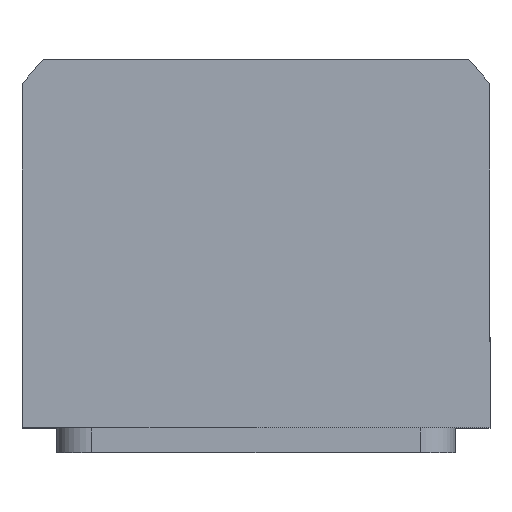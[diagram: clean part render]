
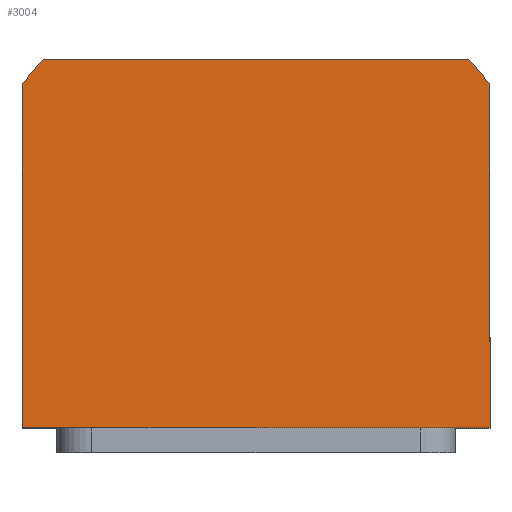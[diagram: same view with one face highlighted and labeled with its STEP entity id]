
A CAD part, top view. The second image highlights one B-rep face of the part: STEP entity #3004.
In plain terms, the highlighted planar face has unit normal (0, 0, 1).
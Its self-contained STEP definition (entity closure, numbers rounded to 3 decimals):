
#149 = ORIENTED_EDGE ( 'NONE', *, *, #14092, .T. ) ;
#204 = AXIS2_PLACEMENT_3D ( 'NONE', #9610, #10722, #3819 ) ;
#368 = CARTESIAN_POINT ( 'NONE',  ( 47., 34.832, 42.5 ) ) ;
#1058 = CARTESIAN_POINT ( 'NONE',  ( 47., -34., 42.5 ) ) ;
#1302 = DIRECTION ( 'NONE',  ( 1., 0., 0. ) ) ;
#1417 = PLANE ( 'NONE',  #204 ) ;
#1786 = LINE ( 'NONE', #368, #3983 ) ;
#1802 = CARTESIAN_POINT ( 'NONE',  ( 47., -34., 42.5 ) ) ;
#1980 = AXIS2_PLACEMENT_3D ( 'NONE', #4614, #5809, #13952 ) ;
#2444 = CARTESIAN_POINT ( 'NONE',  ( -47., -34., 42.5 ) ) ;
#2758 = LINE ( 'NONE', #1802, #8617 ) ;
#3004 = ADVANCED_FACE ( 'NONE', ( #13437 ), #1417, .T. ) ;
#3397 = VERTEX_POINT ( 'NONE', #13822 ) ;
#3430 = VERTEX_POINT ( 'NONE', #14097 ) ;
#3482 = EDGE_CURVE ( 'NONE', #7313, #10157, #1786, .T. ) ;
#3571 = ORIENTED_EDGE ( 'NONE', *, *, #12224, .T. ) ;
#3819 = DIRECTION ( 'NONE',  ( 1., 0., 0. ) ) ;
#3983 = VECTOR ( 'NONE', #9540, 1000. ) ;
#4184 = EDGE_CURVE ( 'NONE', #3430, #10911, #11476, .T. ) ;
#4614 = CARTESIAN_POINT ( 'NONE',  ( 0., 0., 42.5 ) ) ;
#4827 = EDGE_LOOP ( 'NONE', ( #8937, #6299, #14672, #149, #3571, #5592 ) ) ;
#4894 = VERTEX_POINT ( 'NONE', #9495 ) ;
#5592 = ORIENTED_EDGE ( 'NONE', *, *, #4184, .T. ) ;
#5809 = DIRECTION ( 'NONE',  ( 0., 0., 1. ) ) ;
#6062 = CARTESIAN_POINT ( 'NONE',  ( -42.688, 40., 42.5 ) ) ;
#6203 = DIRECTION ( 'NONE',  ( -1., 0., 0. ) ) ;
#6299 = ORIENTED_EDGE ( 'NONE', *, *, #3482, .T. ) ;
#6838 = CIRCLE ( 'NONE', #12977, 58.5 ) ;
#7083 = CARTESIAN_POINT ( 'NONE',  ( 0., 0., 42.5 ) ) ;
#7170 = LINE ( 'NONE', #6062, #9030 ) ;
#7313 = VERTEX_POINT ( 'NONE', #1058 ) ;
#8178 = VECTOR ( 'NONE', #11696, 1000. ) ;
#8418 = EDGE_CURVE ( 'NONE', #10157, #3397, #12288, .T. ) ;
#8617 = VECTOR ( 'NONE', #9113, 1000. ) ;
#8937 = ORIENTED_EDGE ( 'NONE', *, *, #9097, .T. ) ;
#9030 = VECTOR ( 'NONE', #6203, 1000. ) ;
#9097 = EDGE_CURVE ( 'NONE', #10911, #7313, #2758, .T. ) ;
#9113 = DIRECTION ( 'NONE',  ( 1., 0., 0. ) ) ;
#9398 = DIRECTION ( 'NONE',  ( 0., 0., 1. ) ) ;
#9495 = CARTESIAN_POINT ( 'NONE',  ( -42.688, 40., 42.5 ) ) ;
#9540 = DIRECTION ( 'NONE',  ( 0., 1., 0. ) ) ;
#9610 = CARTESIAN_POINT ( 'NONE',  ( 0., 0., 42.5 ) ) ;
#10157 = VERTEX_POINT ( 'NONE', #11807 ) ;
#10722 = DIRECTION ( 'NONE',  ( 0., 0., 1. ) ) ;
#10911 = VERTEX_POINT ( 'NONE', #11071 ) ;
#11071 = CARTESIAN_POINT ( 'NONE',  ( -47., -34., 42.5 ) ) ;
#11476 = LINE ( 'NONE', #2444, #8178 ) ;
#11696 = DIRECTION ( 'NONE',  ( 0., -1., 0. ) ) ;
#11807 = CARTESIAN_POINT ( 'NONE',  ( 47., 34.832, 42.5 ) ) ;
#12224 = EDGE_CURVE ( 'NONE', #4894, #3430, #6838, .T. ) ;
#12288 = CIRCLE ( 'NONE', #1980, 58.5 ) ;
#12977 = AXIS2_PLACEMENT_3D ( 'NONE', #7083, #9398, #1302 ) ;
#13437 = FACE_OUTER_BOUND ( 'NONE', #4827, .T. ) ;
#13822 = CARTESIAN_POINT ( 'NONE',  ( 42.688, 40., 42.5 ) ) ;
#13952 = DIRECTION ( 'NONE',  ( 1., 0., 0. ) ) ;
#14092 = EDGE_CURVE ( 'NONE', #3397, #4894, #7170, .T. ) ;
#14097 = CARTESIAN_POINT ( 'NONE',  ( -47., 34.832, 42.5 ) ) ;
#14672 = ORIENTED_EDGE ( 'NONE', *, *, #8418, .T. ) ;
